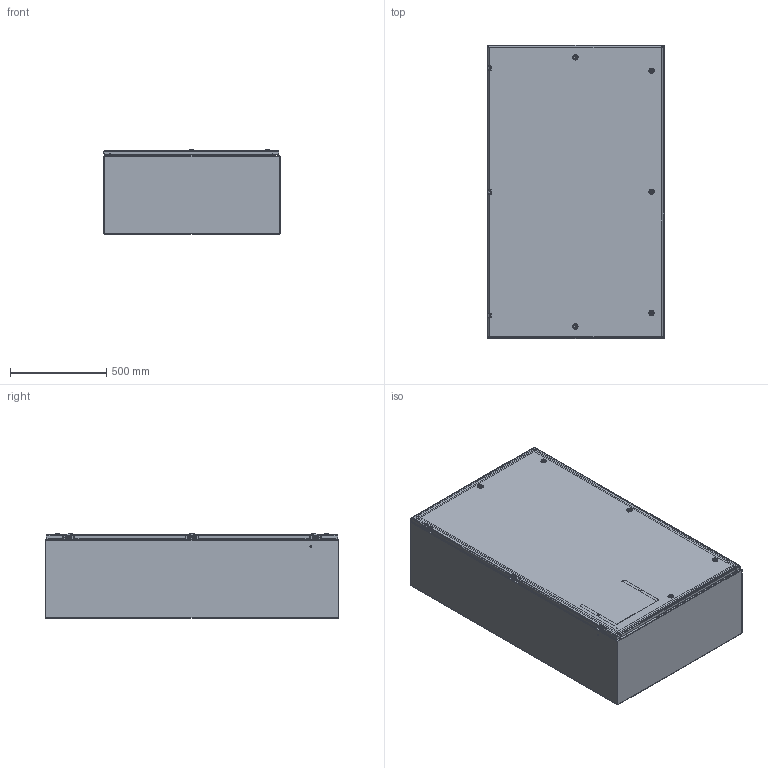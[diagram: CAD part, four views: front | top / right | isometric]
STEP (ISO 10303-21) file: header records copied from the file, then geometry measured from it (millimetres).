
FILE_DESCRIPTION((''),'2;1');
FILE_NAME('MODEL-305_ASM','2024-04-19T10:43:33',('JoelB'),('SAGINAW CONTROL & ENGINEERING'),'CREO PARAMETRIC BY PTC INC, 2021284','CREO PARAMETRIC BY PTC INC, 2021284','');
FILE_SCHEMA(('AUTOMOTIVE_DESIGN { 1 0 10303 214 1 1 1 1 }'));
Length unit declared in the file: inch
Products named in the file (28): MODEL-305-BDY; MODEL-305-TP; MODEL-305-BTM; MODEL-305-DR; 100837; 100882; 111267; 100794_SHAFT; 100794_INSERT; 100794_CAM; 100794_NUT; 100794_SCREW; 100794_ASM; MODEL-305-DOOR-GASKET; 128257; 128257_ASM; 126393; 102483; 101226; 101376; 102140; MODEL-305-DOOR-ASSY_ASM; 101653; 122193; SUBPANEL; 100904; SUBPANEL-SUBASSEMBLY_ASM; MODEL-305_ASM
Assembly tree (67 placements, depth 4):
  MODEL-305_ASM
    MODEL-305-BDY
    MODEL-305-TP
    MODEL-305-BTM
    MODEL-305-DOOR-ASSY_ASM
      MODEL-305-DR
      100837  x3
      100882  x2
      111267
      100794_ASM  x5
        100794_SHAFT
        100794_INSERT
        100794_CAM
        100794_NUT
        100794_SCREW
      MODEL-305-DOOR-GASKET
      128257_ASM  x3
        128257
      126393  x3
      102483  x9
      101226  x3
      101376  x3
      102140  x3
    100837
    101653  x8
    122193
    SUBPANEL-SUBASSEMBLY_ASM
      SUBPANEL
      100904  x8
Bounding box: 914.4 x 1524 x 438.26 mm (x, y, z)
Volume: 15655027.3 mm3; surface area: 13185811.7 mm2
Topology: 81 solids, 81 shells, 5099 faces, 12826 edges, 8029 vertices
Faces by surface type: plane 2403, cylinder 1469, bspline 568, torus 365, cone 190, sphere 104
Entity records: 88511 total; most frequent: CARTESIAN_POINT 25166, ORIENTED_EDGE 9166, DIRECTION 8725, PRESENTATION_STYLE_ASSIGNMENT 4780, EDGE_CURVE 4583, STYLED_ITEM 4505, CURVE_STYLE 4421, AXIS2_PLACEMENT_3D 3181
